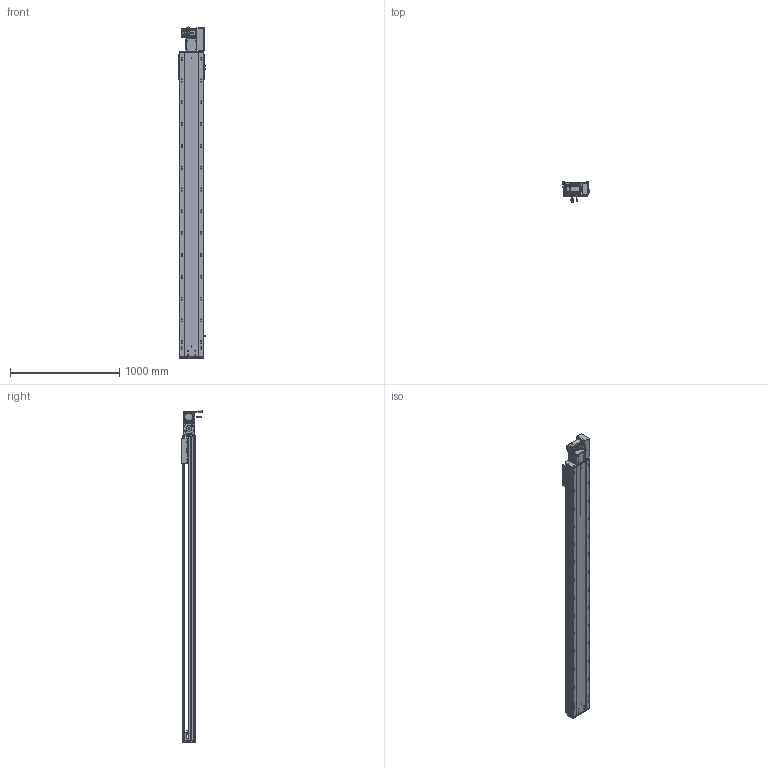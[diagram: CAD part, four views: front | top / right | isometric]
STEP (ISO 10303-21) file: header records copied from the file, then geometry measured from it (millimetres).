
FILE_DESCRIPTION (( 'STEP AP203' ), '1' );
FILE_NAME ('RY220-T-300-RK.SLDASM_2450.step', '2022-07-25T08:25:02', ( '' ), ( '' ), 'SwSTEP 2.0', 'SolidWorks 2016', '' );
FILE_SCHEMA (( 'CONFIG_CONTROL_DESIGN' ));
Length unit declared in the file: millimetre
Products named in the file (14): RY220-T-300-RK.SLDASM_2450; RY220-T菁釱-300_2450; 覜茼ん672; RY220圉猾敕々湍臏賑輸; RY220翋肮祭謫裔啣; RY220翋肮祭謫釱; RY220-同步轮副支撑座6304×2; 怢湛750W_ECMA-CX0807ES; 110A-T-肮祭謫釱傷裔; RY220-T-300-奻裔啣_2450; RY220-T-湍謫欶(鍼踢); RY220-俋离672覜茼んえ; 滅袉蝶18-15; RY220-T-蛌殏萇儂假蚾啣(750W)
Assembly tree (18 placements, depth 2):
  RY220-T-300-RK.SLDASM_2450
    RY220-T菁釱-300_2450
    RY220翋肮祭謫釱
    覜茼ん672  x3
    RY220圉猾敕々湍臏賑輸
    RY220-T-300-奻裔啣_2450
    RY220-俋离672覜茼んえ
    滅袉蝶18-15  x3
    RY220翋肮祭謫裔啣  x2
    110A-T-肮祭謫釱傷裔
    怢湛750W_ECMA-CX0807ES
    RY220-T-湍謫欶(鍼踢)
    RY220-T-蛌殏萇儂假蚾啣(750W)
    RY220-同步轮副支撑座6304×2
Bounding box: 238.7 x 198.77 x 3045.24 mm (x, y, z)
Volume: 21640523.3 mm3; surface area: 6639730.6 mm2
Topology: 19 solids, 19 shells, 2928 faces, 8099 edges, 5086 vertices
Faces by surface type: cylinder 1432, plane 1069, cone 345, bspline 56, sphere 16, torus 10
Entity records: 97683 total; most frequent: CARTESIAN_POINT 27637, ORIENTED_EDGE 14490, DIRECTION 13932, EDGE_CURVE 7245, AXIS2_PLACEMENT_3D 5010, VERTEX_POINT 4710, LINE 3912, VECTOR 3912
